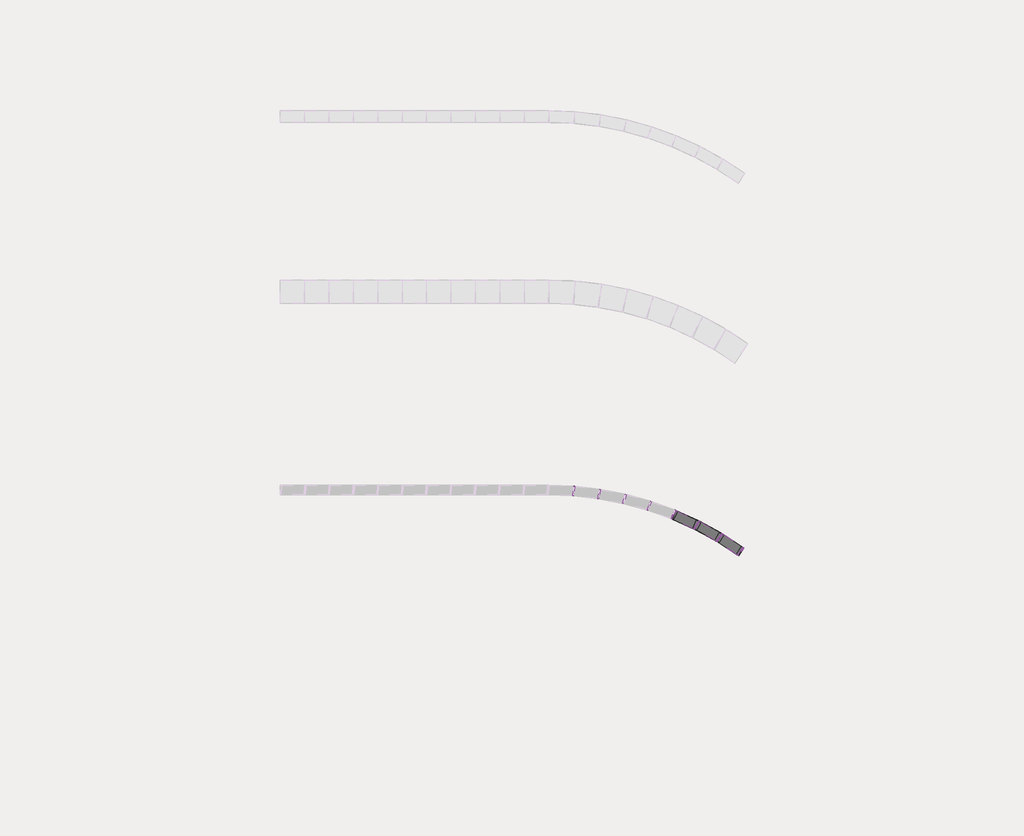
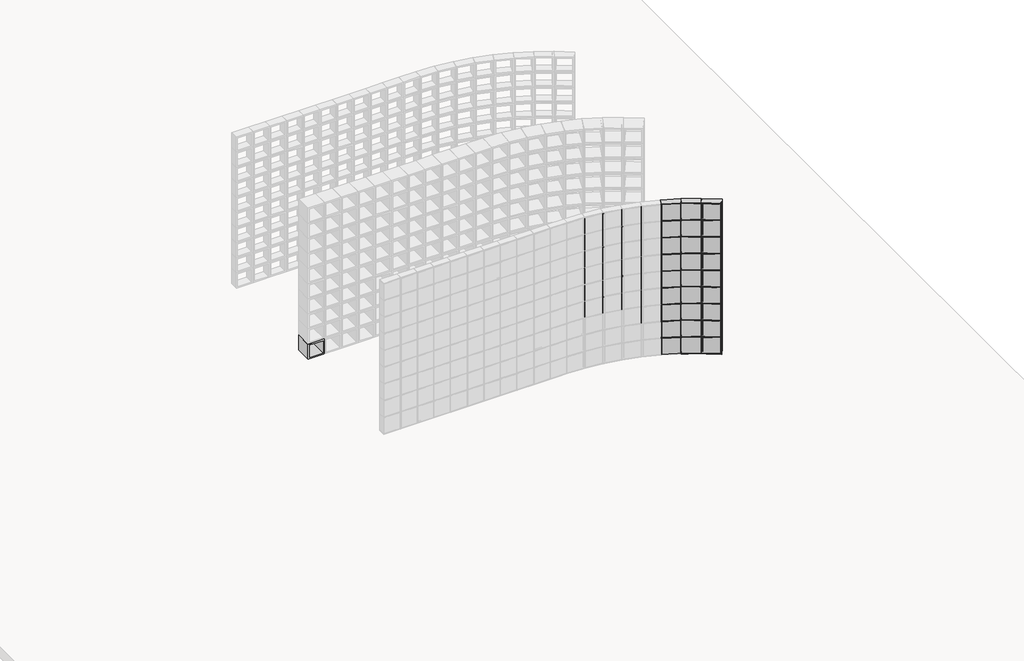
# One storey, part 6 of 15: 88 members, 28 plates.
"""IFC4 building model written with IfcOpenShell, lengths in millimetres."""

from ifc_helpers import new_model, si_unit, origin, place, context, project, spatial, transform, mapped, element, save
from components import rectangular_mullion_junta_tijolo_de_vidro_3e2591da, rectangular_mullion_junta_tijolo_de_vidro_30a91def, rectangular_mullion_junta_tijolo_de_vidro_89802564, rectangular_mullion_junta_tijolo_de_vidro_bb85a0e6, rectangular_mullion_junta_tijolo_de_vidro_a27529c7, rectangular_mullion_junta_tijolo_de_vidro_4ec96616, rectangular_mullion_junta_tijolo_de_vidro_969d4758, rectangular_mullion_junta_tijolo_de_vidro_e04a7503, rectangular_mullion_junta_tijolo_de_vidro_0d08f91d, rectangular_mullion_junta_tijolo_de_vidro_b7994c95, rectangular_mullion_junta_tijolo_de_vidro_e3abfe3a, plate_8b2e527d, pnl_tijolo_de_vidro_ff913bde

model = new_model("IFC4")

# Units and contexts
model_context = context("Model", 3, world=origin())
ifc_project = project(units=[si_unit("LENGTHUNIT", "METRE", prefix="MILLI")], contexts=[model_context])

# Site, building, storey
site = spatial("IfcSite", under=ifc_project)
building = spatial("IfcBuilding", under=site)
storey = spatial("IfcBuildingStorey", under=building, Name="TÉRREO", Elevation=0.0)

# Members
placement = place(None, origin())
rectangular_mullion_junta_tijolo_de_vidro_shape = rectangular_mullion_junta_tijolo_de_vidro_3e2591da(model_context)
element("IfcMember", 1, ObjectType="Rectangular Mullion : JUNTA TIJOLO DE VIDRO", at=placement, inside=storey, context=model_context, shape_type="MappedRepresentation", body=[
    mapped(rectangular_mullion_junta_tijolo_de_vidro_shape, transform((47162.6793654, 2617.3337797, 10.0), x_axis=(0.8946196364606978, -0.4468284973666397, 0.0), y_axis=(-0.4468284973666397, -0.8946196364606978, 0.0), z_axis=(0.0, 0.0, -1.0))),
])
element("IfcMember", 2, ObjectType="Rectangular Mullion : JUNTA TIJOLO DE VIDRO", at=placement, inside=storey, context=model_context, shape_type="MappedRepresentation", body=[
    mapped(rectangular_mullion_junta_tijolo_de_vidro_shape, transform((47355.8089065, 2511.3332986, 10.0), x_axis=(0.8573417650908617, -0.51474760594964, 0.0), y_axis=(-0.51474760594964, -0.8573417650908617, 0.0), z_axis=(0.0, 0.0, -1.0))),
])
element("IfcMember", 3, ObjectType="Rectangular Mullion : JUNTA TIJOLO DE VIDRO", at=placement, inside=storey, context=model_context, shape_type="MappedRepresentation", body=[
    mapped(rectangular_mullion_junta_tijolo_de_vidro_shape, transform((47162.6793654, 2617.3337797, 231.1111111), x_axis=(0.8946196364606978, -0.4468284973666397, 0.0), y_axis=(-0.4468284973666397, -0.8946196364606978, 0.0), z_axis=(0.0, 0.0, -1.0))),
])
element("IfcMember", 4, ObjectType="Rectangular Mullion : JUNTA TIJOLO DE VIDRO", at=placement, inside=storey, context=model_context, shape_type="MappedRepresentation", body=[
    mapped(rectangular_mullion_junta_tijolo_de_vidro_shape, transform((47355.8089065, 2511.3332986, 231.1111111), x_axis=(0.8573417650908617, -0.51474760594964, 0.0), y_axis=(-0.51474760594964, -0.8573417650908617, 0.0), z_axis=(0.0, 0.0, -1.0))),
])
element("IfcMember", 5, ObjectType="Rectangular Mullion : JUNTA TIJOLO DE VIDRO", at=placement, inside=storey, context=model_context, shape_type="MappedRepresentation", body=[
    mapped(rectangular_mullion_junta_tijolo_de_vidro_shape, transform((46754.7450629, 2782.9802475, 452.2222222), x_axis=(0.9528735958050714, -0.3033676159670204, 0.0), y_axis=(-0.3033676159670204, -0.9528735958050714, 0.0), z_axis=(0.0, 0.0, -1.0))),
])
element("IfcMember", 6, ObjectType="Rectangular Mullion : JUNTA TIJOLO DE VIDRO", at=placement, inside=storey, context=model_context, shape_type="MappedRepresentation", body=[
    mapped(rectangular_mullion_junta_tijolo_de_vidro_shape, transform((46961.9230613, 2708.0643037, 452.2222222), x_axis=(0.9265274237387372, -0.37622723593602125, 0.0), y_axis=(-0.37622723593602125, -0.9265274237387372, 0.0), z_axis=(0.0, 0.0, -1.0))),
])
element("IfcMember", 7, ObjectType="Rectangular Mullion : JUNTA TIJOLO DE VIDRO", at=placement, inside=storey, context=model_context, shape_type="MappedRepresentation", body=[
    mapped(rectangular_mullion_junta_tijolo_de_vidro_shape, transform((47162.6793654, 2617.3337797, 452.2222222), x_axis=(0.8946196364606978, -0.4468284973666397, 0.0), y_axis=(-0.4468284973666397, -0.8946196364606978, 0.0), z_axis=(0.0, 0.0, -1.0))),
])
element("IfcMember", 8, ObjectType="Rectangular Mullion : JUNTA TIJOLO DE VIDRO", at=placement, inside=storey, context=model_context, shape_type="MappedRepresentation", body=[
    mapped(rectangular_mullion_junta_tijolo_de_vidro_shape, transform((47355.8089065, 2511.3332986, 452.2222222), x_axis=(0.8573417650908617, -0.51474760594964, 0.0), y_axis=(-0.51474760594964, -0.8573417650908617, 0.0), z_axis=(0.0, 0.0, -1.0))),
])
element("IfcMember", 9, ObjectType="Rectangular Mullion : JUNTA TIJOLO DE VIDRO", at=placement, inside=storey, context=model_context, shape_type="MappedRepresentation", body=[
    mapped(rectangular_mullion_junta_tijolo_de_vidro_shape, transform((46107.2648215, 2908.8339158, 673.3333333), x_axis=(0.9971333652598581, -0.07566407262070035, 0.0), y_axis=(-0.07566407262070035, -0.9971333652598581, 0.0), z_axis=(0.0, 0.0, -1.0))),
])
element("IfcMember", 10, ObjectType="Rectangular Mullion : JUNTA TIJOLO DE VIDRO", at=placement, inside=storey, context=model_context, shape_type="MappedRepresentation", body=[
    mapped(rectangular_mullion_junta_tijolo_de_vidro_shape, transform((46326.1295296, 2883.6672477, 673.3333333), x_axis=(0.9882828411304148, -0.15263363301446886, 0.0), y_axis=(-0.15263363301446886, -0.9882828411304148, 0.0), z_axis=(0.0, 0.0, -1.0))),
])
element("IfcMember", 11, ObjectType="Rectangular Mullion : JUNTA TIJOLO DE VIDRO", at=placement, inside=storey, context=model_context, shape_type="MappedRepresentation", body=[
    mapped(rectangular_mullion_junta_tijolo_de_vidro_shape, transform((46542.3889863, 2841.6319172, 673.3333333), x_axis=(0.9735000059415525, -0.22868698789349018, 0.0), y_axis=(-0.22868698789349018, -0.9735000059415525, 0.0), z_axis=(0.0, 0.0, -1.0))),
])
element("IfcMember", 12, ObjectType="Rectangular Mullion : JUNTA TIJOLO DE VIDRO", at=placement, inside=storey, context=model_context, shape_type="MappedRepresentation", body=[
    mapped(rectangular_mullion_junta_tijolo_de_vidro_shape, transform((46754.7450629, 2782.9802475, 673.3333333), x_axis=(0.9528735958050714, -0.3033676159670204, 0.0), y_axis=(-0.3033676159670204, -0.9528735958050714, 0.0), z_axis=(0.0, 0.0, -1.0))),
])
element("IfcMember", 13, ObjectType="Rectangular Mullion : JUNTA TIJOLO DE VIDRO", at=placement, inside=storey, context=model_context, shape_type="MappedRepresentation", body=[
    mapped(rectangular_mullion_junta_tijolo_de_vidro_shape, transform((46961.9230613, 2708.0643037, 673.3333333), x_axis=(0.9265274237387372, -0.37622723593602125, 0.0), y_axis=(-0.37622723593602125, -0.9265274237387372, 0.0), z_axis=(0.0, 0.0, -1.0))),
])
element("IfcMember", 14, ObjectType="Rectangular Mullion : JUNTA TIJOLO DE VIDRO", at=placement, inside=storey, context=model_context, shape_type="MappedRepresentation", body=[
    mapped(rectangular_mullion_junta_tijolo_de_vidro_shape, transform((47162.6793654, 2617.3337797, 673.3333333), x_axis=(0.8946196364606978, -0.4468284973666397, 0.0), y_axis=(-0.4468284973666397, -0.8946196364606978, 0.0), z_axis=(0.0, 0.0, -1.0))),
])
element("IfcMember", 15, ObjectType="Rectangular Mullion : JUNTA TIJOLO DE VIDRO", at=placement, inside=storey, context=model_context, shape_type="MappedRepresentation", body=[
    mapped(rectangular_mullion_junta_tijolo_de_vidro_shape, transform((47355.8089065, 2511.3332986, 673.3333333), x_axis=(0.8573417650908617, -0.51474760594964, 0.0), y_axis=(-0.51474760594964, -0.8573417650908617, 0.0), z_axis=(0.0, 0.0, -1.0))),
])
element("IfcMember", 16, ObjectType="Rectangular Mullion : JUNTA TIJOLO DE VIDRO", at=placement, inside=storey, context=model_context, shape_type="MappedRepresentation", body=[
    mapped(rectangular_mullion_junta_tijolo_de_vidro_shape, transform((46107.2648215, 2908.8339158, 894.4444444), x_axis=(0.9971333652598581, -0.07566407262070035, 0.0), y_axis=(-0.07566407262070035, -0.9971333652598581, 0.0), z_axis=(0.0, 0.0, -1.0))),
])
element("IfcMember", 17, ObjectType="Rectangular Mullion : JUNTA TIJOLO DE VIDRO", at=placement, inside=storey, context=model_context, shape_type="MappedRepresentation", body=[
    mapped(rectangular_mullion_junta_tijolo_de_vidro_shape, transform((46326.1295296, 2883.6672477, 894.4444444), x_axis=(0.9882828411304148, -0.15263363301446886, 0.0), y_axis=(-0.15263363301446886, -0.9882828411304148, 0.0), z_axis=(0.0, 0.0, -1.0))),
])
element("IfcMember", 18, ObjectType="Rectangular Mullion : JUNTA TIJOLO DE VIDRO", at=placement, inside=storey, context=model_context, shape_type="MappedRepresentation", body=[
    mapped(rectangular_mullion_junta_tijolo_de_vidro_shape, transform((46542.3889863, 2841.6319172, 894.4444444), x_axis=(0.9735000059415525, -0.22868698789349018, 0.0), y_axis=(-0.22868698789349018, -0.9735000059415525, 0.0), z_axis=(0.0, 0.0, -1.0))),
])
element("IfcMember", 19, ObjectType="Rectangular Mullion : JUNTA TIJOLO DE VIDRO", at=placement, inside=storey, context=model_context, shape_type="MappedRepresentation", body=[
    mapped(rectangular_mullion_junta_tijolo_de_vidro_shape, transform((46754.7450629, 2782.9802475, 894.4444444), x_axis=(0.9528735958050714, -0.3033676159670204, 0.0), y_axis=(-0.3033676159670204, -0.9528735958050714, 0.0), z_axis=(0.0, 0.0, -1.0))),
])
element("IfcMember", 20, ObjectType="Rectangular Mullion : JUNTA TIJOLO DE VIDRO", at=placement, inside=storey, context=model_context, shape_type="MappedRepresentation", body=[
    mapped(rectangular_mullion_junta_tijolo_de_vidro_shape, transform((46961.9230613, 2708.0643037, 894.4444444), x_axis=(0.9265274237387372, -0.37622723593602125, 0.0), y_axis=(-0.37622723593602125, -0.9265274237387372, 0.0), z_axis=(0.0, 0.0, -1.0))),
])
element("IfcMember", 21, ObjectType="Rectangular Mullion : JUNTA TIJOLO DE VIDRO", at=placement, inside=storey, context=model_context, shape_type="MappedRepresentation", body=[
    mapped(rectangular_mullion_junta_tijolo_de_vidro_shape, transform((47162.6793654, 2617.3337797, 894.4444444), x_axis=(0.8946196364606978, -0.4468284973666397, 0.0), y_axis=(-0.4468284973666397, -0.8946196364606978, 0.0), z_axis=(0.0, 0.0, -1.0))),
])
element("IfcMember", 22, ObjectType="Rectangular Mullion : JUNTA TIJOLO DE VIDRO", at=placement, inside=storey, context=model_context, shape_type="MappedRepresentation", body=[
    mapped(rectangular_mullion_junta_tijolo_de_vidro_shape, transform((47355.8089065, 2511.3332986, 894.4444444), x_axis=(0.8573417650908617, -0.51474760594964, 0.0), y_axis=(-0.51474760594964, -0.8573417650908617, 0.0), z_axis=(0.0, 0.0, -1.0))),
])
element("IfcMember", 23, ObjectType="Rectangular Mullion : JUNTA TIJOLO DE VIDRO", at=placement, inside=storey, context=model_context, shape_type="MappedRepresentation", body=[
    mapped(rectangular_mullion_junta_tijolo_de_vidro_shape, transform((46107.2648215, 2908.8339158, 1115.5555556), x_axis=(0.9971333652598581, -0.07566407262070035, 0.0), y_axis=(-0.07566407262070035, -0.9971333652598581, 0.0), z_axis=(0.0, 0.0, -1.0))),
])
element("IfcMember", 24, ObjectType="Rectangular Mullion : JUNTA TIJOLO DE VIDRO", at=placement, inside=storey, context=model_context, shape_type="MappedRepresentation", body=[
    mapped(rectangular_mullion_junta_tijolo_de_vidro_shape, transform((46326.1295296, 2883.6672477, 1115.5555556), x_axis=(0.9882828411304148, -0.15263363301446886, 0.0), y_axis=(-0.15263363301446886, -0.9882828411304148, 0.0), z_axis=(0.0, 0.0, -1.0))),
])
element("IfcMember", 25, ObjectType="Rectangular Mullion : JUNTA TIJOLO DE VIDRO", at=placement, inside=storey, context=model_context, shape_type="MappedRepresentation", body=[
    mapped(rectangular_mullion_junta_tijolo_de_vidro_shape, transform((46542.3889863, 2841.6319172, 1115.5555556), x_axis=(0.9735000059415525, -0.22868698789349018, 0.0), y_axis=(-0.22868698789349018, -0.9735000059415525, 0.0), z_axis=(0.0, 0.0, -1.0))),
])
element("IfcMember", 26, ObjectType="Rectangular Mullion : JUNTA TIJOLO DE VIDRO", at=placement, inside=storey, context=model_context, shape_type="MappedRepresentation", body=[
    mapped(rectangular_mullion_junta_tijolo_de_vidro_shape, transform((46754.7450629, 2782.9802475, 1115.5555556), x_axis=(0.9528735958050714, -0.3033676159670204, 0.0), y_axis=(-0.3033676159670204, -0.9528735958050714, 0.0), z_axis=(0.0, 0.0, -1.0))),
])
element("IfcMember", 27, ObjectType="Rectangular Mullion : JUNTA TIJOLO DE VIDRO", at=placement, inside=storey, context=model_context, shape_type="MappedRepresentation", body=[
    mapped(rectangular_mullion_junta_tijolo_de_vidro_shape, transform((46961.9230613, 2708.0643037, 1115.5555556), x_axis=(0.9265274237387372, -0.37622723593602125, 0.0), y_axis=(-0.37622723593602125, -0.9265274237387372, 0.0), z_axis=(0.0, 0.0, -1.0))),
])
element("IfcMember", 28, ObjectType="Rectangular Mullion : JUNTA TIJOLO DE VIDRO", at=placement, inside=storey, context=model_context, shape_type="MappedRepresentation", body=[
    mapped(rectangular_mullion_junta_tijolo_de_vidro_shape, transform((47162.6793654, 2617.3337797, 1115.5555556), x_axis=(0.8946196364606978, -0.4468284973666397, 0.0), y_axis=(-0.4468284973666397, -0.8946196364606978, 0.0), z_axis=(0.0, 0.0, -1.0))),
])
element("IfcMember", 29, ObjectType="Rectangular Mullion : JUNTA TIJOLO DE VIDRO", at=placement, inside=storey, context=model_context, shape_type="MappedRepresentation", body=[
    mapped(rectangular_mullion_junta_tijolo_de_vidro_shape, transform((47355.8089065, 2511.3332986, 1115.5555556), x_axis=(0.8573417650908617, -0.51474760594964, 0.0), y_axis=(-0.51474760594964, -0.8573417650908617, 0.0), z_axis=(0.0, 0.0, -1.0))),
])
element("IfcMember", 30, ObjectType="Rectangular Mullion : JUNTA TIJOLO DE VIDRO", at=placement, inside=storey, context=model_context, shape_type="MappedRepresentation", body=[
    mapped(rectangular_mullion_junta_tijolo_de_vidro_shape, transform((46107.2648215, 2908.8339158, 1336.6666667), x_axis=(0.9971333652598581, -0.07566407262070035, 0.0), y_axis=(-0.07566407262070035, -0.9971333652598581, 0.0), z_axis=(0.0, 0.0, -1.0))),
])
element("IfcMember", 31, ObjectType="Rectangular Mullion : JUNTA TIJOLO DE VIDRO", at=placement, inside=storey, context=model_context, shape_type="MappedRepresentation", body=[
    mapped(rectangular_mullion_junta_tijolo_de_vidro_shape, transform((46326.1295296, 2883.6672477, 1336.6666667), x_axis=(0.9882828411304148, -0.15263363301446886, 0.0), y_axis=(-0.15263363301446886, -0.9882828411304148, 0.0), z_axis=(0.0, 0.0, -1.0))),
])
element("IfcMember", 32, ObjectType="Rectangular Mullion : JUNTA TIJOLO DE VIDRO", at=placement, inside=storey, context=model_context, shape_type="MappedRepresentation", body=[
    mapped(rectangular_mullion_junta_tijolo_de_vidro_shape, transform((46542.3889863, 2841.6319172, 1336.6666667), x_axis=(0.9735000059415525, -0.22868698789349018, 0.0), y_axis=(-0.22868698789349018, -0.9735000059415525, 0.0), z_axis=(0.0, 0.0, -1.0))),
])
element("IfcMember", 33, ObjectType="Rectangular Mullion : JUNTA TIJOLO DE VIDRO", at=placement, inside=storey, context=model_context, shape_type="MappedRepresentation", body=[
    mapped(rectangular_mullion_junta_tijolo_de_vidro_shape, transform((46754.7450629, 2782.9802475, 1336.6666667), x_axis=(0.9528735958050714, -0.3033676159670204, 0.0), y_axis=(-0.3033676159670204, -0.9528735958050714, 0.0), z_axis=(0.0, 0.0, -1.0))),
])
element("IfcMember", 34, ObjectType="Rectangular Mullion : JUNTA TIJOLO DE VIDRO", at=placement, inside=storey, context=model_context, shape_type="MappedRepresentation", body=[
    mapped(rectangular_mullion_junta_tijolo_de_vidro_shape, transform((46961.9230613, 2708.0643037, 1336.6666667), x_axis=(0.9265274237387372, -0.37622723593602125, 0.0), y_axis=(-0.37622723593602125, -0.9265274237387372, 0.0), z_axis=(0.0, 0.0, -1.0))),
])
element("IfcMember", 35, ObjectType="Rectangular Mullion : JUNTA TIJOLO DE VIDRO", at=placement, inside=storey, context=model_context, shape_type="MappedRepresentation", body=[
    mapped(rectangular_mullion_junta_tijolo_de_vidro_shape, transform((47162.6793654, 2617.3337797, 1336.6666667), x_axis=(0.8946196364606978, -0.4468284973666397, 0.0), y_axis=(-0.4468284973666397, -0.8946196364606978, 0.0), z_axis=(0.0, 0.0, -1.0))),
])
element("IfcMember", 36, ObjectType="Rectangular Mullion : JUNTA TIJOLO DE VIDRO", at=placement, inside=storey, context=model_context, shape_type="MappedRepresentation", body=[
    mapped(rectangular_mullion_junta_tijolo_de_vidro_shape, transform((47355.8089065, 2511.3332986, 1336.6666667), x_axis=(0.8573417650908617, -0.51474760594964, 0.0), y_axis=(-0.51474760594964, -0.8573417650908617, 0.0), z_axis=(0.0, 0.0, -1.0))),
])
element("IfcMember", 37, ObjectType="Rectangular Mullion : JUNTA TIJOLO DE VIDRO", at=placement, inside=storey, context=model_context, shape_type="MappedRepresentation", body=[
    mapped(rectangular_mullion_junta_tijolo_de_vidro_shape, transform((46107.2648215, 2908.8339158, 1557.7777778), x_axis=(0.9971333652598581, -0.07566407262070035, 0.0), y_axis=(-0.07566407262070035, -0.9971333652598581, 0.0), z_axis=(0.0, 0.0, -1.0))),
])
element("IfcMember", 38, ObjectType="Rectangular Mullion : JUNTA TIJOLO DE VIDRO", at=placement, inside=storey, context=model_context, shape_type="MappedRepresentation", body=[
    mapped(rectangular_mullion_junta_tijolo_de_vidro_shape, transform((46326.1295296, 2883.6672477, 1557.7777778), x_axis=(0.9882828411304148, -0.15263363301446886, 0.0), y_axis=(-0.15263363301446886, -0.9882828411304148, 0.0), z_axis=(0.0, 0.0, -1.0))),
])
element("IfcMember", 39, ObjectType="Rectangular Mullion : JUNTA TIJOLO DE VIDRO", at=placement, inside=storey, context=model_context, shape_type="MappedRepresentation", body=[
    mapped(rectangular_mullion_junta_tijolo_de_vidro_shape, transform((46542.3889863, 2841.6319172, 1557.7777778), x_axis=(0.9735000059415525, -0.22868698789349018, 0.0), y_axis=(-0.22868698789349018, -0.9735000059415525, 0.0), z_axis=(0.0, 0.0, -1.0))),
])
element("IfcMember", 40, ObjectType="Rectangular Mullion : JUNTA TIJOLO DE VIDRO", at=placement, inside=storey, context=model_context, shape_type="MappedRepresentation", body=[
    mapped(rectangular_mullion_junta_tijolo_de_vidro_shape, transform((46754.7450629, 2782.9802475, 1557.7777778), x_axis=(0.9528735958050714, -0.3033676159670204, 0.0), y_axis=(-0.3033676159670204, -0.9528735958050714, 0.0), z_axis=(0.0, 0.0, -1.0))),
])
element("IfcMember", 41, ObjectType="Rectangular Mullion : JUNTA TIJOLO DE VIDRO", at=placement, inside=storey, context=model_context, shape_type="MappedRepresentation", body=[
    mapped(rectangular_mullion_junta_tijolo_de_vidro_shape, transform((46961.9230613, 2708.0643037, 1557.7777778), x_axis=(0.9265274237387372, -0.37622723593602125, 0.0), y_axis=(-0.37622723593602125, -0.9265274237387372, 0.0), z_axis=(0.0, 0.0, -1.0))),
])
element("IfcMember", 42, ObjectType="Rectangular Mullion : JUNTA TIJOLO DE VIDRO", at=placement, inside=storey, context=model_context, shape_type="MappedRepresentation", body=[
    mapped(rectangular_mullion_junta_tijolo_de_vidro_shape, transform((47162.6793654, 2617.3337797, 1557.7777778), x_axis=(0.8946196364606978, -0.4468284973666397, 0.0), y_axis=(-0.4468284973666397, -0.8946196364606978, 0.0), z_axis=(0.0, 0.0, -1.0))),
])
element("IfcMember", 43, ObjectType="Rectangular Mullion : JUNTA TIJOLO DE VIDRO", at=placement, inside=storey, context=model_context, shape_type="MappedRepresentation", body=[
    mapped(rectangular_mullion_junta_tijolo_de_vidro_shape, transform((47355.8089065, 2511.3332986, 1557.7777778), x_axis=(0.8573417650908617, -0.51474760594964, 0.0), y_axis=(-0.51474760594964, -0.8573417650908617, 0.0), z_axis=(0.0, 0.0, -1.0))),
])
element("IfcMember", 44, ObjectType="Rectangular Mullion : JUNTA TIJOLO DE VIDRO", at=placement, inside=storey, context=model_context, shape_type="MappedRepresentation", body=[
    mapped(rectangular_mullion_junta_tijolo_de_vidro_shape, transform((46107.2648215, 2908.8339158, 1778.8888889), x_axis=(0.9971333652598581, -0.07566407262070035, 0.0), y_axis=(-0.07566407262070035, -0.9971333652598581, 0.0), z_axis=(0.0, 0.0, -1.0))),
])
element("IfcMember", 45, ObjectType="Rectangular Mullion : JUNTA TIJOLO DE VIDRO", at=placement, inside=storey, context=model_context, shape_type="MappedRepresentation", body=[
    mapped(rectangular_mullion_junta_tijolo_de_vidro_shape, transform((46326.1295296, 2883.6672477, 1778.8888889), x_axis=(0.9882828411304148, -0.15263363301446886, 0.0), y_axis=(-0.15263363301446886, -0.9882828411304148, 0.0), z_axis=(0.0, 0.0, -1.0))),
])
element("IfcMember", 46, ObjectType="Rectangular Mullion : JUNTA TIJOLO DE VIDRO", at=placement, inside=storey, context=model_context, shape_type="MappedRepresentation", body=[
    mapped(rectangular_mullion_junta_tijolo_de_vidro_shape, transform((46542.3889863, 2841.6319172, 1778.8888889), x_axis=(0.9735000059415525, -0.22868698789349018, 0.0), y_axis=(-0.22868698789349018, -0.9735000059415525, 0.0), z_axis=(0.0, 0.0, -1.0))),
])
element("IfcMember", 47, ObjectType="Rectangular Mullion : JUNTA TIJOLO DE VIDRO", at=placement, inside=storey, context=model_context, shape_type="MappedRepresentation", body=[
    mapped(rectangular_mullion_junta_tijolo_de_vidro_shape, transform((46754.7450629, 2782.9802475, 1778.8888889), x_axis=(0.9528735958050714, -0.3033676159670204, 0.0), y_axis=(-0.3033676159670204, -0.9528735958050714, 0.0), z_axis=(0.0, 0.0, -1.0))),
])
element("IfcMember", 48, ObjectType="Rectangular Mullion : JUNTA TIJOLO DE VIDRO", at=placement, inside=storey, context=model_context, shape_type="MappedRepresentation", body=[
    mapped(rectangular_mullion_junta_tijolo_de_vidro_shape, transform((46961.9230613, 2708.0643037, 1778.8888889), x_axis=(0.9265274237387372, -0.37622723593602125, 0.0), y_axis=(-0.37622723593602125, -0.9265274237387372, 0.0), z_axis=(0.0, 0.0, -1.0))),
])
element("IfcMember", 49, ObjectType="Rectangular Mullion : JUNTA TIJOLO DE VIDRO", at=placement, inside=storey, context=model_context, shape_type="MappedRepresentation", body=[
    mapped(rectangular_mullion_junta_tijolo_de_vidro_shape, transform((47162.6793654, 2617.3337797, 1778.8888889), x_axis=(0.8946196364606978, -0.4468284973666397, 0.0), y_axis=(-0.4468284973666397, -0.8946196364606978, 0.0), z_axis=(0.0, 0.0, -1.0))),
])
element("IfcMember", 50, ObjectType="Rectangular Mullion : JUNTA TIJOLO DE VIDRO", at=placement, inside=storey, context=model_context, shape_type="MappedRepresentation", body=[
    mapped(rectangular_mullion_junta_tijolo_de_vidro_shape, transform((47355.8089065, 2511.3332986, 1778.8888889), x_axis=(0.8573417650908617, -0.51474760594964, 0.0), y_axis=(-0.51474760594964, -0.8573417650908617, 0.0), z_axis=(0.0, 0.0, -1.0))),
])
rectangular_mullion_junta_tijolo_de_vidro_2_shape = rectangular_mullion_junta_tijolo_de_vidro_30a91def(model_context)
element("IfcMember", 51, ObjectType="Rectangular Mullion : JUNTA TIJOLO DE VIDRO", at=placement, inside=storey, context=model_context, shape_type="MappedRepresentation", body=[
    mapped(rectangular_mullion_junta_tijolo_de_vidro_2_shape, transform((47544.2275613, 2387.7954462, 10.0), x_axis=(0.8362756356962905, -0.5483092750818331, 0.0), y_axis=(-0.5483092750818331, -0.8362756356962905, 0.0), z_axis=(0.0, 0.0, -1.0))),
])
rectangular_mullion_junta_tijolo_de_vidro_3_shape = rectangular_mullion_junta_tijolo_de_vidro_89802564(model_context)
element("IfcMember", 52, ObjectType="Rectangular Mullion : JUNTA TIJOLO DE VIDRO", at=placement, inside=storey, context=model_context, shape_type="MappedRepresentation", body=[
    mapped(rectangular_mullion_junta_tijolo_de_vidro_3_shape, transform((47544.2275613, 2387.7954462, 226.1111111), x_axis=(0.8362756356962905, -0.5483092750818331, 0.0), y_axis=(-0.5483092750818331, -0.8362756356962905, 0.0), z_axis=(0.0, 0.0, -1.0))),
])
element("IfcMember", 53, ObjectType="Rectangular Mullion : JUNTA TIJOLO DE VIDRO", at=placement, inside=storey, context=model_context, shape_type="MappedRepresentation", body=[
    mapped(rectangular_mullion_junta_tijolo_de_vidro_3_shape, transform((47544.2275613, 2387.7954462, 447.2222222), x_axis=(0.8362756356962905, -0.5483092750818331, 0.0), y_axis=(-0.5483092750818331, -0.8362756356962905, 0.0), z_axis=(0.0, 0.0, -1.0))),
])
element("IfcMember", 54, ObjectType="Rectangular Mullion : JUNTA TIJOLO DE VIDRO", at=placement, inside=storey, context=model_context, shape_type="MappedRepresentation", body=[
    mapped(rectangular_mullion_junta_tijolo_de_vidro_3_shape, transform((47544.2275613, 2387.7954462, 668.3333333), x_axis=(0.8362756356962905, -0.5483092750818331, 0.0), y_axis=(-0.5483092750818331, -0.8362756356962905, 0.0), z_axis=(0.0, 0.0, -1.0))),
])
element("IfcMember", 55, ObjectType="Rectangular Mullion : JUNTA TIJOLO DE VIDRO", at=placement, inside=storey, context=model_context, shape_type="MappedRepresentation", body=[
    mapped(rectangular_mullion_junta_tijolo_de_vidro_3_shape, transform((47544.2275613, 2387.7954462, 889.4444444), x_axis=(0.8362756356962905, -0.5483092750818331, 0.0), y_axis=(-0.5483092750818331, -0.8362756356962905, 0.0), z_axis=(0.0, 0.0, -1.0))),
])
element("IfcMember", 56, ObjectType="Rectangular Mullion : JUNTA TIJOLO DE VIDRO", at=placement, inside=storey, context=model_context, shape_type="MappedRepresentation", body=[
    mapped(rectangular_mullion_junta_tijolo_de_vidro_3_shape, transform((47544.2275613, 2387.7954462, 1110.5555556), x_axis=(0.8362756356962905, -0.5483092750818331, 0.0), y_axis=(-0.5483092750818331, -0.8362756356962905, 0.0), z_axis=(0.0, 0.0, -1.0))),
])
element("IfcMember", 57, ObjectType="Rectangular Mullion : JUNTA TIJOLO DE VIDRO", at=placement, inside=storey, context=model_context, shape_type="MappedRepresentation", body=[
    mapped(rectangular_mullion_junta_tijolo_de_vidro_3_shape, transform((47544.2275613, 2387.7954462, 1331.6666667), x_axis=(0.8362756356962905, -0.5483092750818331, 0.0), y_axis=(-0.5483092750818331, -0.8362756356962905, 0.0), z_axis=(0.0, 0.0, -1.0))),
])
element("IfcMember", 58, ObjectType="Rectangular Mullion : JUNTA TIJOLO DE VIDRO", at=placement, inside=storey, context=model_context, shape_type="MappedRepresentation", body=[
    mapped(rectangular_mullion_junta_tijolo_de_vidro_3_shape, transform((47544.2275613, 2387.7954462, 1552.7777778), x_axis=(0.8362756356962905, -0.5483092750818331, 0.0), y_axis=(-0.5483092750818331, -0.8362756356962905, 0.0), z_axis=(0.0, 0.0, -1.0))),
])
element("IfcMember", 59, ObjectType="Rectangular Mullion : JUNTA TIJOLO DE VIDRO", at=placement, inside=storey, context=model_context, shape_type="MappedRepresentation", body=[
    mapped(rectangular_mullion_junta_tijolo_de_vidro_2_shape, transform((47544.2275613, 2387.7954462, 1773.8888889), x_axis=(0.8362756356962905, -0.5483092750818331, 0.0), y_axis=(-0.5483092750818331, -0.8362756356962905, 0.0), z_axis=(0.0, 0.0, -1.0))),
])
rectangular_mullion_junta_tijolo_de_vidro_4_shape = rectangular_mullion_junta_tijolo_de_vidro_bb85a0e6(model_context)
element("IfcMember", 60, ObjectType="Rectangular Mullion : JUNTA TIJOLO DE VIDRO", at=placement, inside=storey, context=model_context, shape_type="MappedRepresentation", body=[
    mapped(rectangular_mullion_junta_tijolo_de_vidro_4_shape, transform((47544.2275613, 2387.7954462, 2000.0), x_axis=(0.0, 0.0, 1.0), y_axis=(-0.5483092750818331, -0.8362756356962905, 0.0), z_axis=(0.8362756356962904, -0.548309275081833, 0.0))),
])
rectangular_mullion_junta_tijolo_de_vidro_5_shape = rectangular_mullion_junta_tijolo_de_vidro_a27529c7(model_context)
element("IfcMember", 61, ObjectType="Rectangular Mullion : JUNTA TIJOLO DE VIDRO", at=placement, inside=storey, context=model_context, shape_type="MappedRepresentation", body=[
    mapped(rectangular_mullion_junta_tijolo_de_vidro_5_shape, transform((47162.6793654, 2617.3337797, 2000.0), x_axis=(0.0, 0.0, 1.0), y_axis=(-0.4118369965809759, -0.9112575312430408, 0.0), z_axis=(0.9112575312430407, -0.41183699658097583, 0.0))),
])
rectangular_mullion_junta_tijolo_de_vidro_6_shape = rectangular_mullion_junta_tijolo_de_vidro_4ec96616(model_context)
element("IfcMember", 62, ObjectType="Rectangular Mullion : JUNTA TIJOLO DE VIDRO", at=placement, inside=storey, context=model_context, shape_type="MappedRepresentation", body=[
    mapped(rectangular_mullion_junta_tijolo_de_vidro_6_shape, transform((47355.8089065, 2511.3332986, 2000.0), x_axis=(0.0, 0.0, 1.0), y_axis=(-0.481149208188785, -0.8766387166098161, 0.0), z_axis=(0.876638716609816, -0.4811492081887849, 0.0))),
])
rectangular_mullion_junta_tijolo_de_vidro_7_shape = rectangular_mullion_junta_tijolo_de_vidro_969d4758(model_context)
element("IfcMember", 63, ObjectType="Rectangular Mullion : JUNTA TIJOLO DE VIDRO", at=placement, inside=storey, context=model_context, shape_type="MappedRepresentation", body=[
    mapped(rectangular_mullion_junta_tijolo_de_vidro_7_shape, transform((47162.6793654, 2617.3337797, 0.0), x_axis=(0.0, 0.0, -1.0), y_axis=(-0.481149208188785, -0.8766387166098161, 0.0), z_axis=(-0.876638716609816, 0.4811492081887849, 0.0))),
])
rectangular_mullion_junta_tijolo_de_vidro_8_shape = rectangular_mullion_junta_tijolo_de_vidro_e04a7503(model_context)
element("IfcMember", 64, ObjectType="Rectangular Mullion : JUNTA TIJOLO DE VIDRO", at=placement, inside=storey, context=model_context, shape_type="MappedRepresentation", body=[
    mapped(rectangular_mullion_junta_tijolo_de_vidro_8_shape, transform((47355.8089065, 2511.3332986, 0.0), x_axis=(0.0, 0.0, -1.0), y_axis=(-0.5483092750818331, -0.8362756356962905, 0.0), z_axis=(-0.8362756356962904, 0.548309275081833, 0.0))),
])
rectangular_mullion_junta_tijolo_de_vidro_9_shape = rectangular_mullion_junta_tijolo_de_vidro_0d08f91d(model_context)
element("IfcMember", 65, ObjectType="Rectangular Mullion : JUNTA TIJOLO DE VIDRO", at=placement, inside=storey, context=model_context, shape_type="MappedRepresentation", body=[
    mapped(rectangular_mullion_junta_tijolo_de_vidro_9_shape, transform((47162.6793654, 2617.3337797, 226.1111111), x_axis=(0.0, 0.0, 1.0), y_axis=(-0.4118369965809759, -0.9112575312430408, 0.0), z_axis=(0.9112575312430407, -0.41183699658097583, 0.0))),
])
element("IfcMember", 66, ObjectType="Rectangular Mullion : JUNTA TIJOLO DE VIDRO", at=placement, inside=storey, context=model_context, shape_type="MappedRepresentation", body=[
    mapped(rectangular_mullion_junta_tijolo_de_vidro_9_shape, transform((47162.6793654, 2617.3337797, 447.2222222), x_axis=(0.0, 0.0, 1.0), y_axis=(-0.4118369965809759, -0.9112575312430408, 0.0), z_axis=(0.9112575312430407, -0.41183699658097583, 0.0))),
])
element("IfcMember", 67, ObjectType="Rectangular Mullion : JUNTA TIJOLO DE VIDRO", at=placement, inside=storey, context=model_context, shape_type="MappedRepresentation", body=[
    mapped(rectangular_mullion_junta_tijolo_de_vidro_9_shape, transform((47162.6793654, 2617.3337797, 668.3333333), x_axis=(0.0, 0.0, 1.0), y_axis=(-0.4118369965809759, -0.9112575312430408, 0.0), z_axis=(0.9112575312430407, -0.41183699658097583, 0.0))),
])
element("IfcMember", 68, ObjectType="Rectangular Mullion : JUNTA TIJOLO DE VIDRO", at=placement, inside=storey, context=model_context, shape_type="MappedRepresentation", body=[
    mapped(rectangular_mullion_junta_tijolo_de_vidro_9_shape, transform((47162.6793654, 2617.3337797, 889.4444444), x_axis=(0.0, 0.0, 1.0), y_axis=(-0.4118369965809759, -0.9112575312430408, 0.0), z_axis=(0.9112575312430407, -0.41183699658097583, 0.0))),
])
element("IfcMember", 69, ObjectType="Rectangular Mullion : JUNTA TIJOLO DE VIDRO", at=placement, inside=storey, context=model_context, shape_type="MappedRepresentation", body=[
    mapped(rectangular_mullion_junta_tijolo_de_vidro_9_shape, transform((47162.6793654, 2617.3337797, 1110.5555556), x_axis=(0.0, 0.0, 1.0), y_axis=(-0.4118369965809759, -0.9112575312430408, 0.0), z_axis=(0.9112575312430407, -0.41183699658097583, 0.0))),
])
element("IfcMember", 70, ObjectType="Rectangular Mullion : JUNTA TIJOLO DE VIDRO", at=placement, inside=storey, context=model_context, shape_type="MappedRepresentation", body=[
    mapped(rectangular_mullion_junta_tijolo_de_vidro_9_shape, transform((47162.6793654, 2617.3337797, 1331.6666667), x_axis=(0.0, 0.0, 1.0), y_axis=(-0.4118369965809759, -0.9112575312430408, 0.0), z_axis=(0.9112575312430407, -0.41183699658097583, 0.0))),
])
element("IfcMember", 71, ObjectType="Rectangular Mullion : JUNTA TIJOLO DE VIDRO", at=placement, inside=storey, context=model_context, shape_type="MappedRepresentation", body=[
    mapped(rectangular_mullion_junta_tijolo_de_vidro_9_shape, transform((47162.6793654, 2617.3337797, 1552.7777778), x_axis=(0.0, 0.0, 1.0), y_axis=(-0.4118369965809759, -0.9112575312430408, 0.0), z_axis=(0.9112575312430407, -0.41183699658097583, 0.0))),
])
element("IfcMember", 72, ObjectType="Rectangular Mullion : JUNTA TIJOLO DE VIDRO", at=placement, inside=storey, context=model_context, shape_type="MappedRepresentation", body=[
    mapped(rectangular_mullion_junta_tijolo_de_vidro_9_shape, transform((47162.6793654, 2617.3337797, 1773.8888889), x_axis=(0.0, 0.0, 1.0), y_axis=(-0.4118369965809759, -0.9112575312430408, 0.0), z_axis=(0.9112575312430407, -0.41183699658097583, 0.0))),
])
rectangular_mullion_junta_tijolo_de_vidro_10_shape = rectangular_mullion_junta_tijolo_de_vidro_b7994c95(model_context)
element("IfcMember", 73, ObjectType="Rectangular Mullion : JUNTA TIJOLO DE VIDRO", at=placement, inside=storey, context=model_context, shape_type="MappedRepresentation", body=[
    mapped(rectangular_mullion_junta_tijolo_de_vidro_10_shape, transform((47355.8089065, 2511.3332986, 226.1111111), x_axis=(0.0, 0.0, 1.0), y_axis=(-0.481149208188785, -0.8766387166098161, 0.0), z_axis=(0.876638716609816, -0.4811492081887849, 0.0))),
])
element("IfcMember", 74, ObjectType="Rectangular Mullion : JUNTA TIJOLO DE VIDRO", at=placement, inside=storey, context=model_context, shape_type="MappedRepresentation", body=[
    mapped(rectangular_mullion_junta_tijolo_de_vidro_10_shape, transform((47355.8089065, 2511.3332986, 447.2222222), x_axis=(0.0, 0.0, 1.0), y_axis=(-0.481149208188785, -0.8766387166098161, 0.0), z_axis=(0.876638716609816, -0.4811492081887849, 0.0))),
])
element("IfcMember", 75, ObjectType="Rectangular Mullion : JUNTA TIJOLO DE VIDRO", at=placement, inside=storey, context=model_context, shape_type="MappedRepresentation", body=[
    mapped(rectangular_mullion_junta_tijolo_de_vidro_10_shape, transform((47355.8089065, 2511.3332986, 668.3333333), x_axis=(0.0, 0.0, 1.0), y_axis=(-0.481149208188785, -0.8766387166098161, 0.0), z_axis=(0.876638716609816, -0.4811492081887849, 0.0))),
])
element("IfcMember", 76, ObjectType="Rectangular Mullion : JUNTA TIJOLO DE VIDRO", at=placement, inside=storey, context=model_context, shape_type="MappedRepresentation", body=[
    mapped(rectangular_mullion_junta_tijolo_de_vidro_10_shape, transform((47355.8089065, 2511.3332986, 889.4444444), x_axis=(0.0, 0.0, 1.0), y_axis=(-0.481149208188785, -0.8766387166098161, 0.0), z_axis=(0.876638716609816, -0.4811492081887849, 0.0))),
])
element("IfcMember", 77, ObjectType="Rectangular Mullion : JUNTA TIJOLO DE VIDRO", at=placement, inside=storey, context=model_context, shape_type="MappedRepresentation", body=[
    mapped(rectangular_mullion_junta_tijolo_de_vidro_10_shape, transform((47355.8089065, 2511.3332986, 1110.5555556), x_axis=(0.0, 0.0, 1.0), y_axis=(-0.481149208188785, -0.8766387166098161, 0.0), z_axis=(0.876638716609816, -0.4811492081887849, 0.0))),
])
element("IfcMember", 78, ObjectType="Rectangular Mullion : JUNTA TIJOLO DE VIDRO", at=placement, inside=storey, context=model_context, shape_type="MappedRepresentation", body=[
    mapped(rectangular_mullion_junta_tijolo_de_vidro_10_shape, transform((47355.8089065, 2511.3332986, 1331.6666667), x_axis=(0.0, 0.0, 1.0), y_axis=(-0.481149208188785, -0.8766387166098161, 0.0), z_axis=(0.876638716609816, -0.4811492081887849, 0.0))),
])
element("IfcMember", 79, ObjectType="Rectangular Mullion : JUNTA TIJOLO DE VIDRO", at=placement, inside=storey, context=model_context, shape_type="MappedRepresentation", body=[
    mapped(rectangular_mullion_junta_tijolo_de_vidro_10_shape, transform((47355.8089065, 2511.3332986, 1552.7777778), x_axis=(0.0, 0.0, 1.0), y_axis=(-0.481149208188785, -0.8766387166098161, 0.0), z_axis=(0.876638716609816, -0.4811492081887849, 0.0))),
])
element("IfcMember", 80, ObjectType="Rectangular Mullion : JUNTA TIJOLO DE VIDRO", at=placement, inside=storey, context=model_context, shape_type="MappedRepresentation", body=[
    mapped(rectangular_mullion_junta_tijolo_de_vidro_10_shape, transform((47355.8089065, 2511.3332986, 1773.8888889), x_axis=(0.0, 0.0, 1.0), y_axis=(-0.481149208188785, -0.8766387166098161, 0.0), z_axis=(0.876638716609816, -0.4811492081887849, 0.0))),
])
rectangular_mullion_junta_tijolo_de_vidro_11_shape = rectangular_mullion_junta_tijolo_de_vidro_e3abfe3a(model_context)
element("IfcMember", 81, ObjectType="Rectangular Mullion : JUNTA TIJOLO DE VIDRO", at=placement, inside=storey, context=model_context, shape_type="MappedRepresentation", body=[
    mapped(rectangular_mullion_junta_tijolo_de_vidro_11_shape, transform((47535.8648049, 2393.2785389, 226.1111111), x_axis=(0.0, 0.0, 1.0), y_axis=(-0.5483092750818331, -0.8362756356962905, 0.0), z_axis=(0.8362756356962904, -0.548309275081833, 0.0))),
])
element("IfcMember", 82, ObjectType="Rectangular Mullion : JUNTA TIJOLO DE VIDRO", at=placement, inside=storey, context=model_context, shape_type="MappedRepresentation", body=[
    mapped(rectangular_mullion_junta_tijolo_de_vidro_11_shape, transform((47535.8648049, 2393.2785389, 447.2222222), x_axis=(0.0, 0.0, 1.0), y_axis=(-0.5483092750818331, -0.8362756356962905, 0.0), z_axis=(0.8362756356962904, -0.548309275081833, 0.0))),
])
element("IfcMember", 83, ObjectType="Rectangular Mullion : JUNTA TIJOLO DE VIDRO", at=placement, inside=storey, context=model_context, shape_type="MappedRepresentation", body=[
    mapped(rectangular_mullion_junta_tijolo_de_vidro_11_shape, transform((47535.8648049, 2393.2785389, 668.3333333), x_axis=(0.0, 0.0, 1.0), y_axis=(-0.5483092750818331, -0.8362756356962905, 0.0), z_axis=(0.8362756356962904, -0.548309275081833, 0.0))),
])
element("IfcMember", 84, ObjectType="Rectangular Mullion : JUNTA TIJOLO DE VIDRO", at=placement, inside=storey, context=model_context, shape_type="MappedRepresentation", body=[
    mapped(rectangular_mullion_junta_tijolo_de_vidro_11_shape, transform((47535.8648049, 2393.2785389, 889.4444444), x_axis=(0.0, 0.0, 1.0), y_axis=(-0.5483092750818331, -0.8362756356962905, 0.0), z_axis=(0.8362756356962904, -0.548309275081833, 0.0))),
])
element("IfcMember", 85, ObjectType="Rectangular Mullion : JUNTA TIJOLO DE VIDRO", at=placement, inside=storey, context=model_context, shape_type="MappedRepresentation", body=[
    mapped(rectangular_mullion_junta_tijolo_de_vidro_11_shape, transform((47535.8648049, 2393.2785389, 1110.5555556), x_axis=(0.0, 0.0, 1.0), y_axis=(-0.5483092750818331, -0.8362756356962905, 0.0), z_axis=(0.8362756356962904, -0.548309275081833, 0.0))),
])
element("IfcMember", 86, ObjectType="Rectangular Mullion : JUNTA TIJOLO DE VIDRO", at=placement, inside=storey, context=model_context, shape_type="MappedRepresentation", body=[
    mapped(rectangular_mullion_junta_tijolo_de_vidro_11_shape, transform((47535.8648049, 2393.2785389, 1331.6666667), x_axis=(0.0, 0.0, 1.0), y_axis=(-0.5483092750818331, -0.8362756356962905, 0.0), z_axis=(0.8362756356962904, -0.548309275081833, 0.0))),
])
element("IfcMember", 87, ObjectType="Rectangular Mullion : JUNTA TIJOLO DE VIDRO", at=placement, inside=storey, context=model_context, shape_type="MappedRepresentation", body=[
    mapped(rectangular_mullion_junta_tijolo_de_vidro_11_shape, transform((47535.8648049, 2393.2785389, 1552.7777778), x_axis=(0.0, 0.0, 1.0), y_axis=(-0.5483092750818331, -0.8362756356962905, 0.0), z_axis=(0.8362756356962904, -0.548309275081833, 0.0))),
])
element("IfcMember", 88, ObjectType="Rectangular Mullion : JUNTA TIJOLO DE VIDRO", at=placement, inside=storey, context=model_context, shape_type="MappedRepresentation", body=[
    mapped(rectangular_mullion_junta_tijolo_de_vidro_11_shape, transform((47535.8648049, 2393.2785389, 1773.8888889), x_axis=(0.0, 0.0, 1.0), y_axis=(-0.5483092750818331, -0.8362756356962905, 0.0), z_axis=(0.8362756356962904, -0.548309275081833, 0.0))),
])

# Plates
plate_shape = plate_8b2e527d(model_context)
element("IfcPlate", 89, ObjectType="pnl - ELEMENTO VAZADO QUADRICULADO : e = 20", at=placement, inside=storey, context=model_context, shape_type="MappedRepresentation", body=[
    mapped(plate_shape, transform((43696.6577523, 4616.9852574, 0.0), x_axis=(1.0, 0.0, 0.0), y_axis=(0.0, 1.0, 0.0), z_axis=(0.0, 0.0, 1.0))),
])
pnl_tijolo_de_vidro_shape = pnl_tijolo_de_vidro_ff913bde(model_context)
element("IfcPlate", 90, ObjectType="pnl - TIJOLO DE VIDRO : e = 8", at=placement, inside=storey, context=model_context, shape_type="MappedRepresentation", body=[
    mapped(pnl_tijolo_de_vidro_shape, transform((47062.3012134, 2662.6990417, 10.0), x_axis=(0.9112575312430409, -0.4118369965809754, 0.0), y_axis=(0.4118369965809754, 0.9112575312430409, 0.0), z_axis=(0.0, 0.0, 1.0))),
])
element("IfcPlate", 91, ObjectType="pnl - TIJOLO DE VIDRO : e = 8", at=placement, inside=storey, context=model_context, shape_type="MappedRepresentation", body=[
    mapped(pnl_tijolo_de_vidro_shape, transform((47259.244136, 2564.3335391, 10.0), x_axis=(0.8766387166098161, -0.481149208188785, 0.0), y_axis=(0.481149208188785, 0.8766387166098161, 0.0), z_axis=(0.0, 0.0, 1.0))),
])
element("IfcPlate", 92, ObjectType="pnl - TIJOLO DE VIDRO : e = 8", at=placement, inside=storey, context=model_context, shape_type="MappedRepresentation", body=[
    mapped(pnl_tijolo_de_vidro_shape, transform((47447.9275448, 2450.9351456, 10.0), x_axis=(0.8362756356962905, -0.5483092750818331, 0.0), y_axis=(0.5483092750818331, 0.8362756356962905, 0.0), z_axis=(0.0, 0.0, 1.0))),
])
element("IfcPlate", 93, ObjectType="pnl - TIJOLO DE VIDRO : e = 8", at=placement, inside=storey, context=model_context, shape_type="MappedRepresentation", body=[
    mapped(pnl_tijolo_de_vidro_shape, transform((47062.3012134, 2662.6990417, 231.1111111), x_axis=(0.9112575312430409, -0.4118369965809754, 0.0), y_axis=(0.4118369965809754, 0.9112575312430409, 0.0), z_axis=(0.0, 0.0, 1.0))),
])
element("IfcPlate", 94, ObjectType="pnl - TIJOLO DE VIDRO : e = 8", at=placement, inside=storey, context=model_context, shape_type="MappedRepresentation", body=[
    mapped(pnl_tijolo_de_vidro_shape, transform((47259.244136, 2564.3335391, 231.1111111), x_axis=(0.876638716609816, -0.481149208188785, 0.0), y_axis=(0.481149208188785, 0.876638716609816, 0.0), z_axis=(0.0, 0.0, 1.0))),
])
element("IfcPlate", 95, ObjectType="pnl - TIJOLO DE VIDRO : e = 8", at=placement, inside=storey, context=model_context, shape_type="MappedRepresentation", body=[
    mapped(pnl_tijolo_de_vidro_shape, transform((47447.9275448, 2450.9351456, 231.1111111), x_axis=(0.8362756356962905, -0.5483092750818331, 0.0), y_axis=(0.5483092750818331, 0.8362756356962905, 0.0), z_axis=(0.0, 0.0, 1.0))),
])
element("IfcPlate", 96, ObjectType="pnl - TIJOLO DE VIDRO : e = 8", at=placement, inside=storey, context=model_context, shape_type="MappedRepresentation", body=[
    mapped(pnl_tijolo_de_vidro_shape, transform((47062.3012134, 2662.6990417, 452.2222222), x_axis=(0.9112575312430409, -0.41183699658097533, 0.0), y_axis=(0.41183699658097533, 0.9112575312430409, 0.0), z_axis=(0.0, 0.0, 1.0))),
])
element("IfcPlate", 97, ObjectType="pnl - TIJOLO DE VIDRO : e = 8", at=placement, inside=storey, context=model_context, shape_type="MappedRepresentation", body=[
    mapped(pnl_tijolo_de_vidro_shape, transform((47259.244136, 2564.3335391, 452.2222222), x_axis=(0.8766387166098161, -0.4811492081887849, 0.0), y_axis=(0.4811492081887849, 0.8766387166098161, 0.0), z_axis=(0.0, 0.0, 1.0))),
])
element("IfcPlate", 98, ObjectType="pnl - TIJOLO DE VIDRO : e = 8", at=placement, inside=storey, context=model_context, shape_type="MappedRepresentation", body=[
    mapped(pnl_tijolo_de_vidro_shape, transform((47447.9275448, 2450.9351456, 452.2222222), x_axis=(0.8362756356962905, -0.5483092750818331, 0.0), y_axis=(0.5483092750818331, 0.8362756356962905, 0.0), z_axis=(0.0, 0.0, 1.0))),
])
element("IfcPlate", 99, ObjectType="pnl - TIJOLO DE VIDRO : e = 8", at=placement, inside=storey, context=model_context, shape_type="MappedRepresentation", body=[
    mapped(pnl_tijolo_de_vidro_shape, transform((47062.3012134, 2662.6990417, 673.3333333), x_axis=(0.9112575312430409, -0.4118369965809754, 0.0), y_axis=(0.4118369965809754, 0.9112575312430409, 0.0), z_axis=(0.0, 0.0, 1.0))),
])
element("IfcPlate", 100, ObjectType="pnl - TIJOLO DE VIDRO : e = 8", at=placement, inside=storey, context=model_context, shape_type="MappedRepresentation", body=[
    mapped(pnl_tijolo_de_vidro_shape, transform((47259.244136, 2564.3335391, 673.3333333), x_axis=(0.876638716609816, -0.481149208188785, 0.0), y_axis=(0.481149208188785, 0.876638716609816, 0.0), z_axis=(0.0, 0.0, 1.0))),
])
element("IfcPlate", 101, ObjectType="pnl - TIJOLO DE VIDRO : e = 8", at=placement, inside=storey, context=model_context, shape_type="MappedRepresentation", body=[
    mapped(pnl_tijolo_de_vidro_shape, transform((47447.9275448, 2450.9351456, 673.3333333), x_axis=(0.8362756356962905, -0.5483092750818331, 0.0), y_axis=(0.5483092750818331, 0.8362756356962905, 0.0), z_axis=(0.0, 0.0, 1.0))),
])
element("IfcPlate", 102, ObjectType="pnl - TIJOLO DE VIDRO : e = 8", at=placement, inside=storey, context=model_context, shape_type="MappedRepresentation", body=[
    mapped(pnl_tijolo_de_vidro_shape, transform((47062.3012134, 2662.6990417, 894.4444444), x_axis=(0.9112575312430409, -0.4118369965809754, 0.0), y_axis=(0.4118369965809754, 0.9112575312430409, 0.0), z_axis=(0.0, 0.0, 1.0))),
])
element("IfcPlate", 103, ObjectType="pnl - TIJOLO DE VIDRO : e = 8", at=placement, inside=storey, context=model_context, shape_type="MappedRepresentation", body=[
    mapped(pnl_tijolo_de_vidro_shape, transform((47259.244136, 2564.3335391, 894.4444444), x_axis=(0.876638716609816, -0.481149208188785, 0.0), y_axis=(0.481149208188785, 0.876638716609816, 0.0), z_axis=(0.0, 0.0, 1.0))),
])
element("IfcPlate", 104, ObjectType="pnl - TIJOLO DE VIDRO : e = 8", at=placement, inside=storey, context=model_context, shape_type="MappedRepresentation", body=[
    mapped(pnl_tijolo_de_vidro_shape, transform((47447.9275448, 2450.9351456, 894.4444444), x_axis=(0.8362756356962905, -0.5483092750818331, 0.0), y_axis=(0.5483092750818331, 0.8362756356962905, 0.0), z_axis=(0.0, 0.0, 1.0))),
])
element("IfcPlate", 105, ObjectType="pnl - TIJOLO DE VIDRO : e = 8", at=placement, inside=storey, context=model_context, shape_type="MappedRepresentation", body=[
    mapped(pnl_tijolo_de_vidro_shape, transform((47062.3012134, 2662.6990417, 1115.5555556), x_axis=(0.9112575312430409, -0.4118369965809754, 0.0), y_axis=(0.4118369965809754, 0.9112575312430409, 0.0), z_axis=(0.0, 0.0, 1.0))),
])
element("IfcPlate", 106, ObjectType="pnl - TIJOLO DE VIDRO : e = 8", at=placement, inside=storey, context=model_context, shape_type="MappedRepresentation", body=[
    mapped(pnl_tijolo_de_vidro_shape, transform((47259.244136, 2564.3335391, 1115.5555556), x_axis=(0.876638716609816, -0.481149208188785, 0.0), y_axis=(0.481149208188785, 0.876638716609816, 0.0), z_axis=(0.0, 0.0, 1.0))),
])
element("IfcPlate", 107, ObjectType="pnl - TIJOLO DE VIDRO : e = 8", at=placement, inside=storey, context=model_context, shape_type="MappedRepresentation", body=[
    mapped(pnl_tijolo_de_vidro_shape, transform((47447.9275448, 2450.9351456, 1115.5555556), x_axis=(0.8362756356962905, -0.5483092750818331, 0.0), y_axis=(0.5483092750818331, 0.8362756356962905, 0.0), z_axis=(0.0, 0.0, 1.0))),
])
element("IfcPlate", 108, ObjectType="pnl - TIJOLO DE VIDRO : e = 8", at=placement, inside=storey, context=model_context, shape_type="MappedRepresentation", body=[
    mapped(pnl_tijolo_de_vidro_shape, transform((47062.3012134, 2662.6990417, 1336.6666667), x_axis=(0.9112575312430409, -0.4118369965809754, 0.0), y_axis=(0.4118369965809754, 0.9112575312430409, 0.0), z_axis=(0.0, 0.0, 1.0))),
])
element("IfcPlate", 109, ObjectType="pnl - TIJOLO DE VIDRO : e = 8", at=placement, inside=storey, context=model_context, shape_type="MappedRepresentation", body=[
    mapped(pnl_tijolo_de_vidro_shape, transform((47259.244136, 2564.3335391, 1336.6666667), x_axis=(0.8766387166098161, -0.4811492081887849, 0.0), y_axis=(0.4811492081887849, 0.8766387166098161, 0.0), z_axis=(0.0, 0.0, 1.0))),
])
element("IfcPlate", 110, ObjectType="pnl - TIJOLO DE VIDRO : e = 8", at=placement, inside=storey, context=model_context, shape_type="MappedRepresentation", body=[
    mapped(pnl_tijolo_de_vidro_shape, transform((47447.9275448, 2450.9351456, 1336.6666667), x_axis=(0.8362756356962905, -0.5483092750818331, 0.0), y_axis=(0.5483092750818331, 0.8362756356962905, 0.0), z_axis=(0.0, 0.0, 1.0))),
])
element("IfcPlate", 111, ObjectType="pnl - TIJOLO DE VIDRO : e = 8", at=placement, inside=storey, context=model_context, shape_type="MappedRepresentation", body=[
    mapped(pnl_tijolo_de_vidro_shape, transform((47062.3012134, 2662.6990417, 1557.7777778), x_axis=(0.9112575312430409, -0.4118369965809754, 0.0), y_axis=(0.4118369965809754, 0.9112575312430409, 0.0), z_axis=(0.0, 0.0, 1.0))),
])
element("IfcPlate", 112, ObjectType="pnl - TIJOLO DE VIDRO : e = 8", at=placement, inside=storey, context=model_context, shape_type="MappedRepresentation", body=[
    mapped(pnl_tijolo_de_vidro_shape, transform((47259.244136, 2564.3335391, 1557.7777778), x_axis=(0.8766387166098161, -0.4811492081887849, 0.0), y_axis=(0.4811492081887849, 0.8766387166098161, 0.0), z_axis=(0.0, 0.0, 1.0))),
])
element("IfcPlate", 113, ObjectType="pnl - TIJOLO DE VIDRO : e = 8", at=placement, inside=storey, context=model_context, shape_type="MappedRepresentation", body=[
    mapped(pnl_tijolo_de_vidro_shape, transform((47447.9275448, 2450.9351456, 1557.7777778), x_axis=(0.8362756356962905, -0.5483092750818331, 0.0), y_axis=(0.5483092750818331, 0.8362756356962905, 0.0), z_axis=(0.0, 0.0, 1.0))),
])
element("IfcPlate", 114, ObjectType="pnl - TIJOLO DE VIDRO : e = 8", at=placement, inside=storey, context=model_context, shape_type="MappedRepresentation", body=[
    mapped(pnl_tijolo_de_vidro_shape, transform((47062.3012134, 2662.6990417, 1778.8888889), x_axis=(0.9112575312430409, -0.41183699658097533, 0.0), y_axis=(0.41183699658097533, 0.9112575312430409, 0.0), z_axis=(0.0, 0.0, 1.0))),
])
element("IfcPlate", 115, ObjectType="pnl - TIJOLO DE VIDRO : e = 8", at=placement, inside=storey, context=model_context, shape_type="MappedRepresentation", body=[
    mapped(pnl_tijolo_de_vidro_shape, transform((47259.244136, 2564.3335391, 1778.8888889), x_axis=(0.8766387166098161, -0.481149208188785, 0.0), y_axis=(0.481149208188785, 0.8766387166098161, 0.0), z_axis=(0.0, 0.0, 1.0))),
])
element("IfcPlate", 116, ObjectType="pnl - TIJOLO DE VIDRO : e = 8", at=placement, inside=storey, context=model_context, shape_type="MappedRepresentation", body=[
    mapped(pnl_tijolo_de_vidro_shape, transform((47447.9275448, 2450.9351456, 1778.8888889), x_axis=(0.8362756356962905, -0.5483092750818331, 0.0), y_axis=(0.5483092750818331, 0.8362756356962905, 0.0), z_axis=(0.0, 0.0, 1.0))),
])

save(model, "model.ifc")
